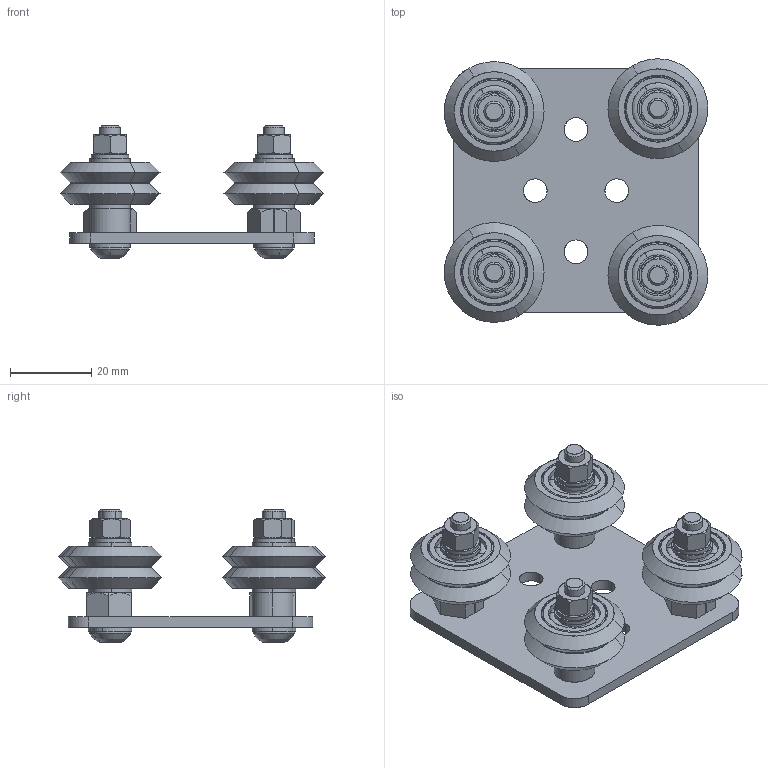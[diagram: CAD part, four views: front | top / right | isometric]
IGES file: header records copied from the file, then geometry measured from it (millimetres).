
Start section: SolidWorks IGES file using analytic representation for surfaces
Global section: file name: X:\13. Informações técnicas\Biblioteca Servidor (Local)\Componentes para perfil\Acessórios V-slot\Kits\Kit CGV02-02 + EEV01-01 + RWV01-01.IGS; native system: SolidWorks 2019; preprocessor: SolidWorks 2019; author: ricardo; date: 200130.110813; units: millimetre
Bounding box: 64.7 x 65.4 x 32.75 mm (x, y, z)
Surface area: 30166.4 mm2 (no closed solid volume)
Topology: 0 solids, 0 shells, 756 faces, 11110 edges, 11102 vertices
Faces by surface type: revolution 422, bspline 334
